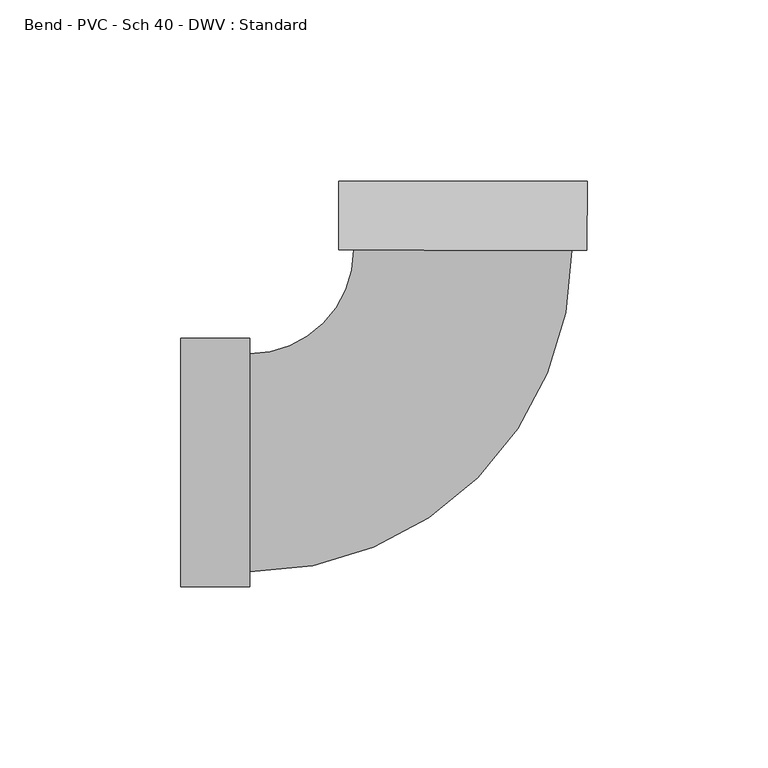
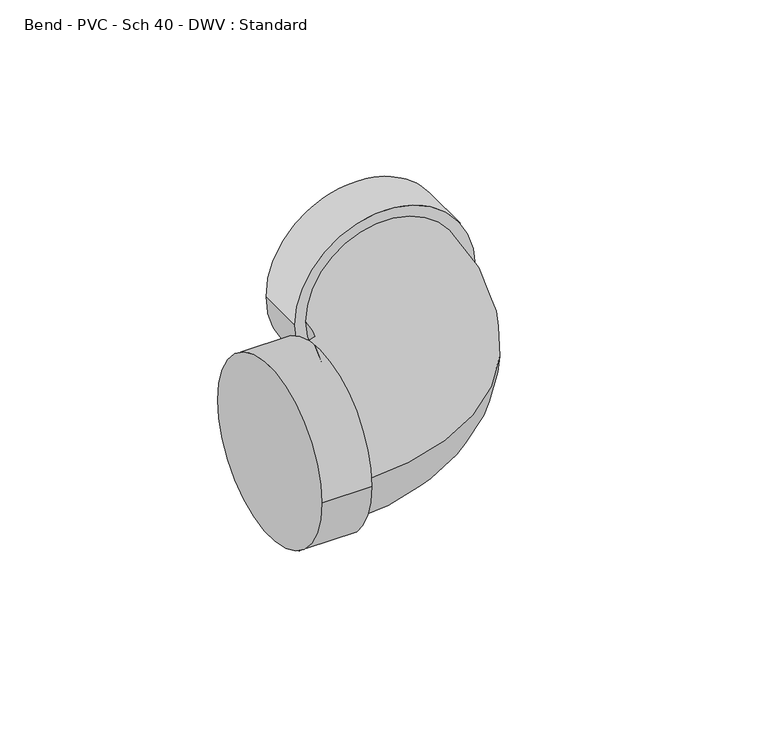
"""IFC4 building model written with IfcOpenShell, lengths in millimetres: pipe fitting geometry, Bend - PVC - Sch 40 - DWV : Standard."""

from ifc_helpers import new_model, si_unit, point, frame, origin, place, context, project, spatial, circle_curve, ellipse_curve, trimmed, source, transform, mapped, element, save
from ifc_brep_helpers import plane_surface, cylinder_surface, revolved_surface, advanced_brep


def bend_pvc_sch_40_dwv_standard_32fa4374(model_context):
    return source(origin(), model_context, "Body", "AdvancedBrep", [
        advanced_brep(
        [(-77.8002, -34.3154, 0.0), (-77.8002, 34.3154, 0.0), (-58.7502, -34.3154, 0.0), (-58.7502, 34.3154, 0.0), (-58.7502, -30.1625, 0.0), (-58.7502, 30.1625, 0.0), (-30.1258056, 58.7690245, 0.0), (30.1991826, 58.7313526, 0.0), (34.3520818, 58.7287592, 0.0), (-34.2787048, 58.7716179, 0.0), (34.3639782, 77.7787554, 0.0), (-34.2668084, 77.8216142, 0.0)],
        [
            (0, 1, circle_curve(frame((-77.8002, 0.0, 0.0), z_axis=(-1.0, 0.0, 0.0), x_axis=(0.0, 1.0, 0.0)), 34.3154)),
            (1, 0, circle_curve(frame((-77.8002, 0.0, 0.0), z_axis=(-1.0, 0.0, 0.0), x_axis=(0.0, 1.0, 0.0)), 34.3154)),
            (2, 3, circle_curve(frame((-58.7502, 0.0, 0.0), z_axis=(1.0, 0.0, 0.0), x_axis=(0.0, 1.0, 0.0)), 34.3154)),
            (3, 2, circle_curve(frame((-58.7502, 0.0, 0.0), z_axis=(1.0, 0.0, 0.0), x_axis=(0.0, 1.0, 0.0)), 34.3154)),
            (4, 5, circle_curve(frame((-58.7502, 0.0, 0.0), z_axis=(-1.0, 0.0, 0.0), x_axis=(0.0, 1.0, 0.0)), 30.1625)),
            (5, 4, circle_curve(frame((-58.7502, 0.0, 0.0), z_axis=(-1.0, 0.0, 0.0), x_axis=(0.0, 1.0, 0.0)), 30.1625)),
            (0, 2),
            (3, 1),
            (6, 5, circle_curve(frame((-58.7502, 58.7869, 0.0), z_axis=(0.0, 0.0, -1.0), x_axis=(0.0, -1.0, 0.0)), 28.6244)),
            (4, 7, circle_curve(frame((-58.7502, 58.7869, 0.0), z_axis=(0.0, 0.0, 1.0), x_axis=(0.0, -1.0, 0.0)), 88.9494)),
            (7, 6, circle_curve(frame((0.0366885, 58.7501885, 0.0), z_axis=(-0.0006244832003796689, -0.9999998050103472, 0.0), x_axis=(-0.9999998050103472, 0.0006244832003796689, 0.0)), 30.1625)),
            (6, 7, circle_curve(frame((0.0366885, 58.7501885, 0.0), z_axis=(-0.0006244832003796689, -0.9999998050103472, 0.0), x_axis=(-0.9999998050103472, 0.0006244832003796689, 0.0)), 30.1625)),
            (8, 9, circle_curve(frame((0.0366885, 58.7501885, 0.0), z_axis=(-0.0006244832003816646, -0.9999998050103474, 0.0), x_axis=(-0.9999998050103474, 0.0006244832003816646, 0.0)), 34.3154)),
            (9, 8, circle_curve(frame((0.0366885, 58.7501885, 0.0), z_axis=(-0.0006244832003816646, -0.9999998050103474, 0.0), x_axis=(-0.9999998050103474, 0.0006244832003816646, 0.0)), 34.3154)),
            (10, 11, circle_curve(frame((0.0485849, 77.8001848, 0.0), z_axis=(0.0006244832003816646, 0.9999998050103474, 0.0), x_axis=(-0.9999998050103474, 0.0006244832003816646, 0.0)), 34.3154)),
            (11, 10, circle_curve(frame((0.0485849, 77.8001848, 0.0), z_axis=(0.0006244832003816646, 0.9999998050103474, 0.0), x_axis=(-0.9999998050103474, 0.0006244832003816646, 0.0)), 34.3154)),
            (8, 10),
            (11, 9),
        ],
        [
            plane_surface(frame((-77.8002, 0.0, 0.0), z_axis=(-1.0, 0.0, 0.0), x_axis=(0.0, 0.0, 1.0))),
            plane_surface(frame((-58.7502, 0.0, 0.0), z_axis=(1.0, 0.0, 0.0), x_axis=(0.0, 0.0, 1.0))),
            cylinder_surface(frame((-77.8002, 0.0, 0.0), z_axis=(-1.0, 0.0, 0.0), x_axis=(0.0, 1.0, 0.0)), 34.3154),
            revolved_surface(trimmed(ellipse_curve(frame((-58.7502, 0.0, 0.0), z_axis=(-1.0, 0.0, 0.0), x_axis=(0.0, 1.0, 0.0)), 30.1625, 30.1625), [point((-58.7502, -30.1625, 0.0))], [point((-58.7502, 30.1625, 0.0))], True, "CARTESIAN"), (-58.7502, 58.7869, 0.0), (0.0, 0.0, 1.0)),
            revolved_surface(trimmed(ellipse_curve(frame((-58.7502, 0.0, 0.0), z_axis=(-1.0, 0.0, 0.0), x_axis=(0.0, 1.0, 0.0)), 30.1625, 30.1625), [point((-58.7502, 30.1625, 0.0))], [point((-58.7502, -30.1625, 0.0))], True, "CARTESIAN"), (-58.7502, 58.7869, 0.0), (0.0, 0.0, 1.0)),
            plane_surface(frame((0.0366885, 58.7501885, 0.0), z_axis=(-0.0006244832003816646, -0.9999998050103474, 0.0), x_axis=(0.0, 0.0, 1.0))),
            plane_surface(frame((0.0485849, 77.8001848, 0.0), z_axis=(0.0006244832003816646, 0.9999998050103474, 0.0), x_axis=(0.0, 0.0, 1.0))),
            cylinder_surface(frame((0.0366885, 58.7501885, 0.0), z_axis=(-0.0006244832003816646, -0.9999998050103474, 0.0), x_axis=(-0.9999998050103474, 0.0006244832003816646, 0.0)), 34.3154),
        ],
        [
            (0, [[1, 2]]),
            (1, [[3, 4], [5, 6]]),
            (2, [[-1, 7, -4, 8]]),
            (2, [[-2, -8, -3, -7]]),
            (3, [[9, -5, 10, 11]]),
            (4, [[-9, 12, -10, -6]]),
            (5, [[13, 14], [-11, -12]]),
            (6, [[15, 16]]),
            (7, [[-13, 17, -16, 18]]),
            (7, [[-14, -18, -15, -17]]),
        ],
    ),
    ])


if __name__ == "__main__":
    model = new_model("IFC4")
    model_context = context("Model", 3, world=origin())
    ifc_project = project(units=[si_unit("LENGTHUNIT", "METRE", prefix="MILLI")], contexts=[model_context])
    site = spatial("IfcSite", under=ifc_project)
    building = spatial("IfcBuilding", under=site)
    placement = place(None, origin())
    bend_pvc_sch_40_dwv_standard_shape = bend_pvc_sch_40_dwv_standard_32fa4374(model_context)
    element("IfcPipeFitting", 1, ObjectType="Bend - PVC - Sch 40 - DWV : Standard", at=placement, inside=building, context=model_context, shape_type="MappedRepresentation", body=[
        mapped(bend_pvc_sch_40_dwv_standard_shape, transform((0.0, 0.0, 0.0), x_axis=(1.0, 0.0, 0.0), y_axis=(0.0, 1.0, 0.0), z_axis=(0.0, 0.0, 1.0))),
    ])
    save(model, "model.ifc")
